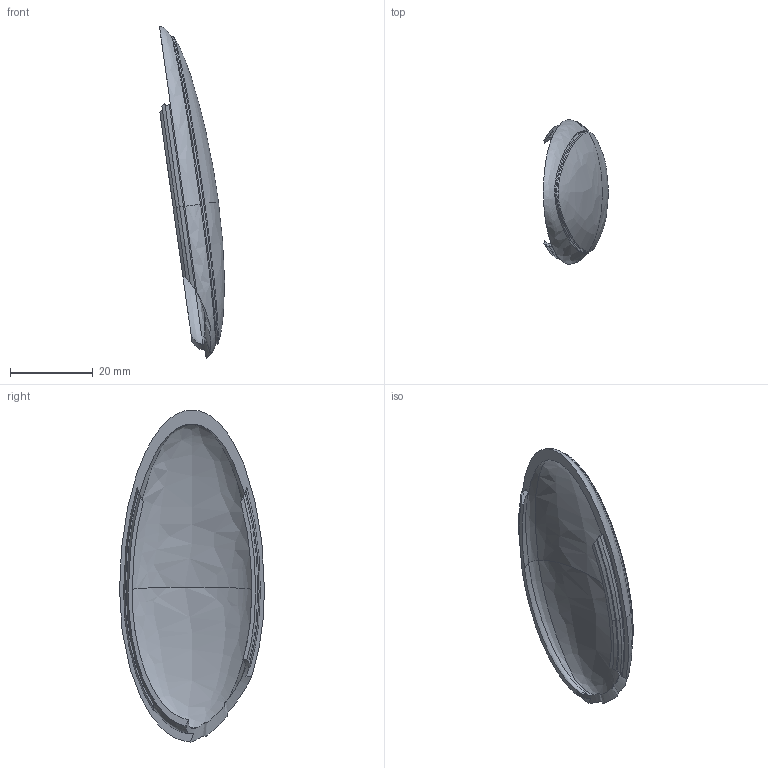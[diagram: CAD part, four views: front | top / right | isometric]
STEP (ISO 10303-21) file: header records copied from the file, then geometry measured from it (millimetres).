
FILE_DESCRIPTION(('Open CASCADE Model'),'2;1');
FILE_NAME('Open CASCADE Shape Model','2026-11-01T16:33:33',('Author'),( 'Open CASCADE'),'Open CASCADE STEP processor 8.0','build123d', 'Unknown');
FILE_SCHEMA(('AUTOMOTIVE_DESIGN { 1 0 10303 214 1 1 1 1 }'));
Products named in the file (1): SOLID
Bounding box: 15.73 x 34.97 x 80.14 mm (x, y, z)
Volume: 5413.4 mm3; surface area: 6089.8 mm2
Topology: 1 solids, 1 shells, 48 faces, 140 edges, 89 vertices
Faces by surface type: bspline 35, plane 8, extrusion 3, cylinder 2
Entity records: 51367 total; most frequent: CARTESIAN_POINT 49546, B_SPLINE_CURVE_WITH_KNOTS 340, ORIENTED_EDGE 270, PCURVE 270, DEFINITIONAL_REPRESENTATION 270, EDGE_CURVE 135, SURFACE_CURVE 132, VERTEX_POINT 89
